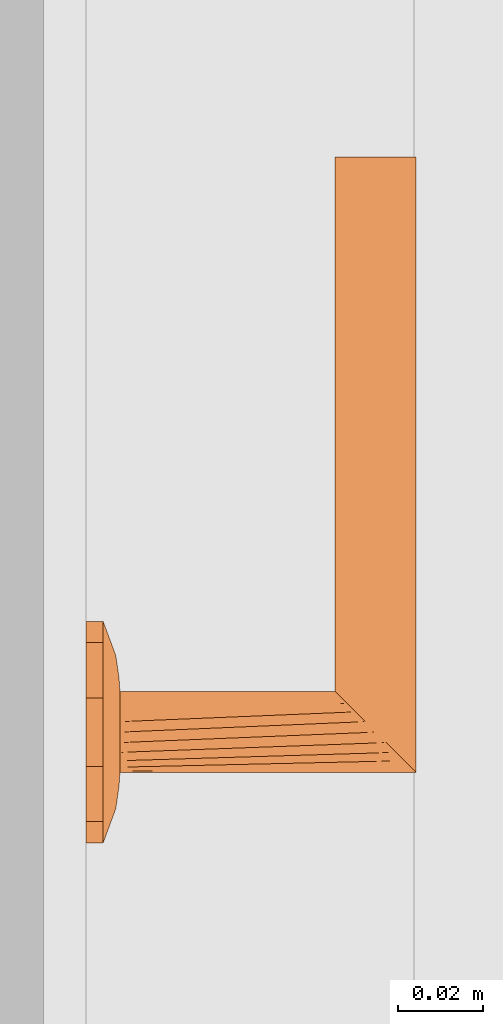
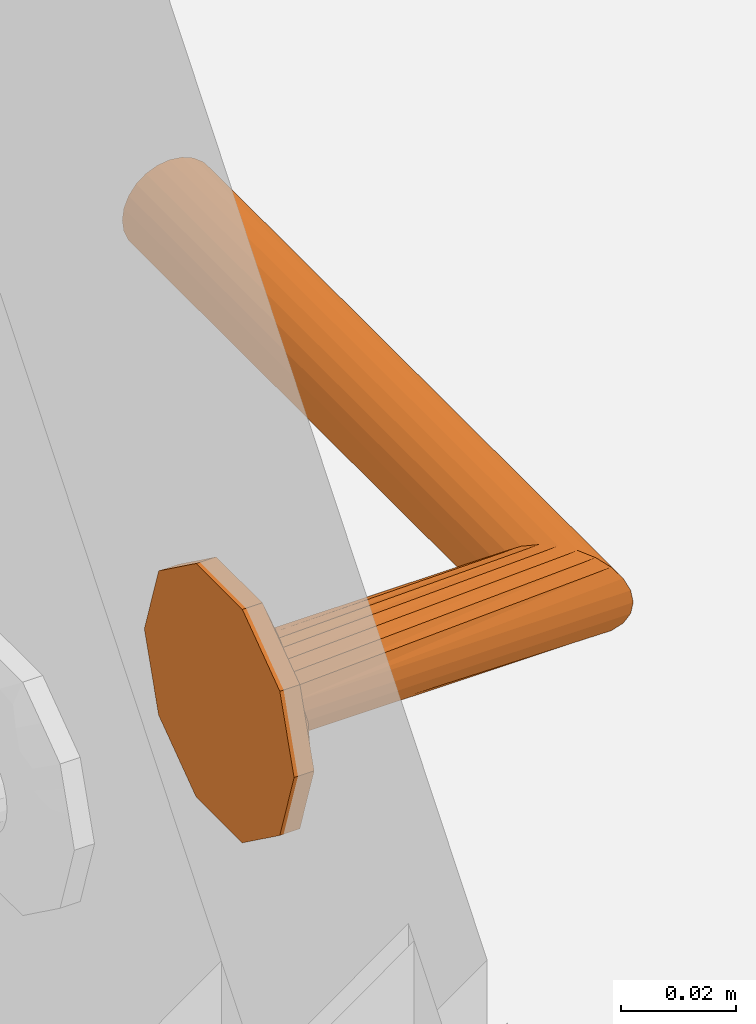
# One storey, part 123 of 125: 1 proxy.
"""IFC2X3 building model written with IfcOpenShell, lengths in millimetres."""

from ifc_helpers import new_model, entity, si_unit, converted_unit, direction, frame, origin, place, context, subcontext, project, spatial, faceted_brep, source, transform, mapped, material, type_object, type_shapes, element, save


model = new_model("IFC2X3")

# Units and contexts
model_context = context("Model", 3, precision=0.01, world=origin(), true_north=direction((6.123233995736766e-17, 1.0)))
plan_context = context("Plan", 3, precision=0.01, world=origin(), true_north=direction((6.123233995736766e-17, 1.0)))
body_context = subcontext(model_context, "Body", "Model", "MODEL_VIEW")
ifc_project = project(units=[si_unit("LENGTHUNIT", "METRE", prefix="MILLI"), converted_unit("PLANEANGLEUNIT", "DEGREE", entity("IfcPlaneAngleMeasure", 0.017453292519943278), si_unit("PLANEANGLEUNIT", "RADIAN"), dimensions=[0, 0, 0, 0, 0, 0, 0]), si_unit("AREAUNIT", "SQUARE_METRE")], contexts=[model_context, plan_context])

# Site, building, storey, space
site_placement = place(None, origin())
site = spatial("IfcSite", under=ifc_project, at=site_placement, Name="Default", CompositionType="ELEMENT")
building_placement = place(site_placement, origin())
building = spatial("IfcBuilding", under=site, at=building_placement, CompositionType="ELEMENT")
storey_placement = place(building_placement, frame((0.0, 0.0, 3125.0)))
storey = spatial("IfcBuildingStorey", under=building, at=storey_placement, Name="2K", CompositionType="ELEMENT", Elevation=3125.0)
space_placement = place(storey_placement, origin())
space = spatial("IfcSpace", under=storey, at=space_placement, Name="2-3.1", CompositionType="ELEMENT", InteriorOrExteriorSpace="INTERNAL")

# Proxy
ifc_material = material(Name="<Unnamed>")
building_element_proxy_type = type_object("IfcBuildingElementProxyType", Name="Door-handle_Lever_ABLOY_INOXI_3-19ss-002_RT:Default", PredefinedType="NOTDEFINED", material=ifc_material)
shared_shape = source(origin(), body_context, "Body", "Brep", [
    faceted_brep([(0.0, 0.0, 0.0), (8.034441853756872, 24.72746942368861, 0.0), (14.534441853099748, 20.00494299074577, 0.0), (21.034441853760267, 15.282416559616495, 0.0), (23.51722092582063, 7.641208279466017, 0.0), (26.0, 0.0, 0.0), (23.517220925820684, -7.641208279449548, 0.0), (0.0, 24.72746942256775, 0.0), (-8.034441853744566, 24.727469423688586, 0.0), (-14.534441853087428, 20.00494299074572, 0.0), (-21.03444185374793, 15.282416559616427, 0.0), (-23.517220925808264, 7.641208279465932, 0.0), (-26.0, 0.0, 0.0), (21.034441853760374, -15.282416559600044, 0.0), (14.534441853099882, -20.004942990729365, 0.0), (8.034441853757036, -24.72746942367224, 0.0), (0.0, -24.72746942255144, 0.0), (-23.517220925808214, -7.641208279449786, 0.0), (-21.034441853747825, -15.282416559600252, 0.0), (-14.53444185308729, -20.004942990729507, 0.0), (-8.0344418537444, -24.72746942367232, 0.0), (0.0, 0.0, 8.0), (9.500000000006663, 0.0, 8.0), (8.312500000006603, 2.056810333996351, 8.0), (7.125000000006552, 4.113620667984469, 8.0), (5.937500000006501, 6.170431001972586, 8.0), (4.7500000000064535, 8.227241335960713, 8.0), (2.375000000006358, 8.2272413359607, 8.0), (0.0, 8.227241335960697, 8.0), (-2.3749999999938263, 8.227241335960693, 8.0), (-4.749999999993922, 8.227241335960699, 8.0), (-5.937499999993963, 6.1704310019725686, 8.0), (-7.124999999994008, 4.1136206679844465, 8.0), (-8.312499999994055, 2.0568103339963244, 8.0), (-9.499999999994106, 0.0, 8.0), (-8.31249999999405, -2.0568103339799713, 8.0), (8.312500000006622, -2.0568103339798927, 8.0), (7.125000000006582, -4.113620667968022, 8.0), (5.937500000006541, -6.170431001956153, 8.0), (4.750000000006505, -8.227241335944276, 8.0), (-7.124999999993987, -4.113620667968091, 8.0), (-5.9374999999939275, -6.17043100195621, 8.0), (-4.74999999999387, -8.227241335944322, 8.0), (-2.374999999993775, -8.227241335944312, 8.0), (0.0, -8.227241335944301, 8.0), (2.3750000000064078, -8.227241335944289, 8.0), (-20.6430713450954, 6.292822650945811, 5.929480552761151), (-16.663919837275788, 7.932665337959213, 6.877259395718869), (-22.48876527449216, 10.806469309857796, 4.030771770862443), (-16.764060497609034, 3.8202578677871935, 7.1747985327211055), (-12.504579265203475, 5.179566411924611, 7.774932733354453), (-11.979136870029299, 13.678312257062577, 6.945778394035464), (-11.963426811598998, 8.62529041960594, 7.618343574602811), (-9.07172672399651, 10.31160661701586, 7.7520782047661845), (8.03444185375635, 24.727469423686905, 4.030771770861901), (0.0, 24.72746942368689, 4.030771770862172), (5.758554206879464, 20.96753300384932, 5.871476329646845), (20.643071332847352, 6.292822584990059, 5.929480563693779), (22.488765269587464, 10.806469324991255, 4.03077177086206), (16.66391982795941, 7.9326653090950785, 6.877259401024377), (9.49943163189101, 18.6436835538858, 6.154325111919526), (14.534441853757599, 20.004942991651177, 4.030771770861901), (-14.534441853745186, 20.00494299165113, 4.030771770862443), (-21.034441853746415, 15.282416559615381, 4.030771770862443), (-15.783149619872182, 11.991003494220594, 6.50080018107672), (-23.943088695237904, 6.330522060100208, 4.030771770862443), (-23.012042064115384, 0.0, 5.135401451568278), (12.50457924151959, 5.179566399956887, 7.774932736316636), (11.963426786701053, 8.625290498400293, 7.618343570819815), (16.76406041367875, 3.820257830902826, 7.17479855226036), (15.783149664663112, 11.991003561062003, 6.50080015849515), (23.01204200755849, 0.0, 5.135401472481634), (17.9853516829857, 0.0, 6.993737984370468), (8.661516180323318, 10.478936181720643, 7.768126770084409), (-3.3573143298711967, 21.197247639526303, 5.971427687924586), (-8.03444185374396, 24.727469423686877, 4.030771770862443), (-7.711266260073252, 12.76034452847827, 7.594456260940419), (-5.97325794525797, 16.43013906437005, 7.110979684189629), (-9.94191586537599, 17.061976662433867, 6.522757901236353), (11.979136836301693, 13.678312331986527, 6.945778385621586), (5.953298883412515, 16.50608604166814, 7.096344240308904), (7.511307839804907, 13.358932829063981, 7.529187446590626), (-1.5654593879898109, 15.307443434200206, 7.519134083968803), (-7.784980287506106, 20.476295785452, 5.812837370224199), (2.8135289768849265, 17.763922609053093, 6.993737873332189), (-17.985351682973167, 0.0, 6.993737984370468), (-26.0, 0.0, 4.030771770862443), (-23.51722092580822, 7.641208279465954, 4.030771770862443), (26.0, 0.0, 4.030771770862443), (24.308823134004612, 5.204907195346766, 4.030771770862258), (23.943088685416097, 6.330522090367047, 4.030771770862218), (21.03444185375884, 15.282416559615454, 4.030771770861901), (22.617646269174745, 10.40981439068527, 4.030771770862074), (20.6430713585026, -6.292822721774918, 5.929480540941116), (16.663919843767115, -7.932665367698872, 6.877259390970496), (22.48876527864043, -10.8064692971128, 4.030771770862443), (16.764060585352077, -3.8202579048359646, 7.174798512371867), (12.504579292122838, -5.17956641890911, 7.774932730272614), (11.979136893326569, -13.678312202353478, 6.9457784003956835), (11.963426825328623, -8.62529034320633, 7.618343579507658), (9.071726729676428, -10.311606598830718, 7.752078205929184), (-8.03444185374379, -24.727469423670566, 4.030771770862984), (0.0, -24.727469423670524, 4.030771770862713), (-5.758554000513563, -20.96753314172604, 5.8714763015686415), (-20.643071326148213, -6.292822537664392, 5.929480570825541), (-22.488765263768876, -10.80646934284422, 4.030771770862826), (-16.66391981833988, -7.932665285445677, 6.877259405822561), (-9.499431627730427, -18.643683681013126, 6.154325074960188), (-14.534441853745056, -20.004942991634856, 4.030771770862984), (14.53444185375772, -20.00494299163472, 4.030771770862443), (21.034441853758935, -15.282416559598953, 4.030771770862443), (15.783149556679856, -11.991003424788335, 6.5008002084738), (23.943088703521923, -6.330522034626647, 4.030771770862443), (-12.504579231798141, -5.17956638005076, 7.77493273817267), (-11.963426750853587, -8.625290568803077, 7.618343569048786), (-16.764060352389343, -3.8202577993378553, 7.174798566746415), (-15.783149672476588, -11.991003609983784, 6.500800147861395), (-8.661516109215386, -10.478936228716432, 7.768126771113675), (3.3573144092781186, -21.197247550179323, 5.971427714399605), (8.034441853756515, -24.727469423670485, 4.030771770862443), (7.711266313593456, -12.760344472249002, 7.5944562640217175), (5.9732581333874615, -16.430139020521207, 7.110979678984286), (9.941915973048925, -17.06197655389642, 6.522757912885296), (-11.979136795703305, -13.678312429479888, 6.945778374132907), (-5.953298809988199, -16.506086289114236, 7.096344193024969), (-7.511307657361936, -13.358932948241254, 7.5291874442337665), (1.5654596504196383, -15.3074431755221, 7.519134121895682), (7.784980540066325, -20.476295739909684, 5.812837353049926), (-2.81352881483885, -17.76392263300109, 6.993737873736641), (23.517220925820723, -7.64120827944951, 4.030771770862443), (-24.308823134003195, -5.20490719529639, 4.030771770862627), (-23.943088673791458, -6.330522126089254, 4.030771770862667), (-21.034441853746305, -15.282416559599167, 4.030771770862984), (-22.617646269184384, -10.409814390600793, 4.0307717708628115)], [[[0, 1, 2]], [[0, 2, 3]], [[0, 3, 4]], [[0, 4, 5]], [[0, 5, 6]], [[0, 7, 1]], [[0, 8, 7]], [[0, 9, 8]], [[0, 10, 9]], [[0, 11, 10]], [[0, 12, 11]], [[0, 6, 13]], [[0, 13, 14]], [[0, 14, 15]], [[0, 15, 16]], [[0, 17, 12]], [[0, 18, 17]], [[0, 19, 18]], [[0, 20, 19]], [[0, 16, 20]], [[21, 22, 23]], [[21, 23, 24]], [[21, 24, 25]], [[21, 25, 26]], [[21, 26, 27]], [[21, 27, 28]], [[21, 28, 29]], [[21, 29, 30]], [[21, 30, 31]], [[21, 31, 32]], [[21, 32, 33]], [[21, 33, 34]], [[21, 34, 35]], [[21, 36, 22]], [[21, 37, 36]], [[21, 38, 37]], [[21, 39, 38]], [[21, 35, 40]], [[21, 40, 41]], [[21, 41, 42]], [[21, 42, 43]], [[21, 43, 44]], [[21, 44, 45]], [[21, 45, 39]], [[46, 47, 48]], [[49, 50, 47]], [[33, 32, 50]], [[51, 52, 53]], [[32, 52, 50]], [[49, 47, 46]], [[54, 55, 56]], [[57, 58, 59]], [[60, 61, 54]], [[62, 63, 64]], [[46, 65, 66]], [[67, 59, 68]], [[23, 69, 67]], [[70, 68, 59]], [[23, 22, 69]], [[52, 51, 64]], [[71, 69, 72]], [[73, 25, 68]], [[74, 55, 75]], [[76, 77, 78]], [[70, 61, 79]], [[71, 57, 69]], [[60, 80, 81]], [[51, 76, 78]], [[77, 29, 82]], [[26, 81, 27]], [[74, 83, 77]], [[77, 82, 74]], [[74, 84, 55]], [[34, 49, 85]], [[23, 67, 24]], [[28, 84, 82]], [[74, 82, 84]], [[29, 76, 30]], [[29, 28, 82]], [[49, 34, 33]], [[47, 50, 52]], [[47, 52, 64]], [[50, 49, 33]], [[53, 76, 51]], [[52, 32, 31]], [[49, 66, 85]], [[86, 66, 65]], [[24, 67, 68]], [[83, 78, 77]], [[49, 46, 66]], [[48, 64, 63]], [[46, 48, 87, 65]], [[48, 47, 64]], [[59, 67, 69]], [[26, 73, 81]], [[79, 68, 70]], [[25, 24, 68]], [[71, 88, 89, 90]], [[22, 72, 69]], [[59, 69, 57]], [[79, 61, 60]], [[51, 62, 64]], [[70, 58, 91]], [[90, 57, 71]], [[58, 70, 59]], [[57, 90, 92]], [[79, 60, 81]], [[61, 70, 91]], [[56, 80, 60]], [[79, 81, 73]], [[80, 84, 27]], [[79, 73, 68]], [[27, 84, 28]], [[25, 73, 26]], [[77, 76, 29]], [[31, 30, 53]], [[78, 62, 51]], [[75, 62, 83]], [[78, 83, 62]], [[75, 83, 74]], [[76, 53, 30]], [[31, 53, 52]], [[81, 80, 27]], [[84, 80, 56]], [[84, 56, 55]], [[54, 56, 60]], [[93, 94, 95]], [[96, 97, 94]], [[36, 37, 97]], [[98, 99, 100]], [[37, 99, 97]], [[96, 94, 93]], [[101, 102, 103]], [[104, 105, 106]], [[107, 108, 101]], [[109, 110, 111]], [[93, 112, 71]], [[113, 106, 114]], [[35, 115, 113]], [[116, 114, 106]], [[35, 34, 115]], [[99, 98, 111]], [[66, 115, 85]], [[117, 41, 114]], [[118, 102, 119]], [[120, 121, 122]], [[116, 108, 123]], [[66, 104, 115]], [[107, 124, 125]], [[120, 45, 121]], [[121, 45, 126]], [[42, 125, 43]], [[118, 127, 121]], [[121, 126, 118]], [[118, 128, 102]], [[22, 96, 72]], [[35, 113, 40]], [[44, 128, 126]], [[118, 126, 128]], [[45, 120, 39]], [[45, 44, 126]], [[96, 22, 36]], [[94, 97, 99]], [[94, 99, 111]], [[97, 96, 36]], [[100, 120, 98]], [[99, 37, 38]], [[96, 71, 72]], [[88, 71, 112]], [[40, 113, 114]], [[127, 122, 121]], [[96, 93, 71]], [[95, 111, 110]], [[93, 95, 129, 112]], [[95, 94, 111]], [[106, 113, 115]], [[42, 117, 125]], [[123, 114, 116]], [[41, 40, 114]], [[66, 86, 130, 131]], [[34, 85, 115]], [[106, 115, 104]], [[123, 108, 107]], [[98, 109, 111]], [[116, 105, 132]], [[131, 104, 66]], [[105, 116, 106]], [[104, 131, 133]], [[123, 107, 125]], [[108, 116, 132]], [[103, 124, 107]], [[123, 125, 117]], [[124, 128, 43]], [[123, 117, 114]], [[43, 128, 44]], [[41, 117, 42]], [[38, 39, 100]], [[98, 120, 122]], [[122, 109, 98]], [[119, 109, 127]], [[122, 127, 109]], [[119, 127, 118]], [[120, 100, 39]], [[38, 100, 99]], [[125, 124, 43]], [[128, 124, 103]], [[128, 103, 102]], [[101, 103, 107]], [[9, 10, 63, 62, 75, 8]], [[11, 12, 86, 65, 87, 48, 63, 10]], [[4, 3, 92, 90, 89, 88, 5]], [[3, 91, 58]], [[55, 54, 1, 7, 8, 75]], [[3, 2, 1, 54, 61, 91]], [[13, 6, 5, 88, 112, 129, 95, 110]], [[119, 15, 14, 13, 110, 109]], [[17, 18, 133, 131, 130, 86, 12]], [[18, 132, 105]], [[102, 101, 20, 16, 15, 119]], [[18, 19, 20, 101, 108, 132]], [[57, 92, 58]], [[104, 133, 105]], [[3, 58, 92]], [[18, 105, 133]]]),
    faceted_brep([(0.0, 9.499999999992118, 8.0), (2.4587809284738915, 9.176295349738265, 8.0), (4.7499999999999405, 8.22724133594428, 8.0), (6.717514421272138, 6.7175144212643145, 8.0), (8.227241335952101, 4.749999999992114, 8.0), (9.17629534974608, 2.458780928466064, 8.0), (9.499999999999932, 0.0, 8.0), (9.17629534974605, -2.458780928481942, 8.0), (8.22724133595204, -4.75000000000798, 8.0), (6.717514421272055, -6.717514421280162, 8.0), (4.7499999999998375, -8.227241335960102, 8.0), (2.4587809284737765, -9.176295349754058, 8.0), (0.0, -9.500000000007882, 8.0), (-2.4587809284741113, -9.176295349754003, 8.0), (-4.750000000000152, -8.227241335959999, 8.0), (-6.717514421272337, -6.717514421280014, 8.0), (-8.227241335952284, -4.750000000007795, 8.0), (-9.176295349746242, -2.458780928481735, 8.0), (-9.500000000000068, 0.0, 8.0), (-9.176295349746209, 2.4587809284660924, 8.0), (-8.227241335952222, 4.74999999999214, 8.0), (-6.717514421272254, 6.717514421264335, 8.0), (-4.7500000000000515, 8.227241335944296, 8.0), (-2.4587809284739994, 9.176295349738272, 8.0), (-6.717514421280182, -6.7175144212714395, 61.282485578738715), (-8.227241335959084, -4.7499999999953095, 59.772758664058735), (-9.176295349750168, -2.458780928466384, 58.82370465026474), (-2.4587809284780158, -9.176295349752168, 65.54121907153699), (-4.750000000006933, -8.227241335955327, 63.25000000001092), (-9.500000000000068, 0.0, 58.50000000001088), (0.0, -9.50000000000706, 68.0), (2.4587809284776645, -9.17629534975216, 70.45878092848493), (4.750000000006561, -8.227241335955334, 72.75000000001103), (6.717514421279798, -6.7175144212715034, 74.71751442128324), (9.17629534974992, -2.458780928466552, 77.17629534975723), (8.22724133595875, -4.749999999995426, 76.22724133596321), (9.499999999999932, 0.0, 77.50000000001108), (9.176295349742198, 2.4587809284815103, 77.1762953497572), (8.227241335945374, 4.750000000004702, 76.22724133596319), (4.749999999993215, 8.227241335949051, 72.75000000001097), (6.7175144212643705, 6.717514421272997, 74.7175144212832), (2.4587809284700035, 9.17629534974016, 70.45878092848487), (-2.4587809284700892, 9.176295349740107, 65.54121907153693), (0.0, 9.49999999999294, 68.0), (-6.717514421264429, 6.717514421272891, 61.282485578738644), (-4.749999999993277, 8.227241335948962, 63.250000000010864), (-9.176295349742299, 2.458780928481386, 58.8237046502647), (-8.227241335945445, 4.750000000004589, 59.77275866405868), (-135.0, 9.500000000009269, 68.0), (-135.0, 9.176295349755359, 65.54121907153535), (-135.0, 8.227241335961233, 63.25000000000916), (-135.0, 6.7175144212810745, 61.28248557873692), (-135.0, 4.750000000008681, 59.772758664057), (-135.0, 2.458780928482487, 58.82370465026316), (-135.0, 0.0, 58.50000000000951), (-135.0, -2.458780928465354, 58.823704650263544), (-135.0, -4.749999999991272, 59.772758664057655), (-135.0, -6.717514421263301, 61.28248557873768), (-135.0, -8.227241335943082, 63.250000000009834), (-135.0, -9.17629534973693, 65.54121907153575), (-135.0, -9.499999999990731, 68.0), (-135.0, -9.17629534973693, 70.45878092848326), (-135.0, -8.227241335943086, 72.75000000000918), (-135.0, -6.717514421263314, 74.71751442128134), (-135.0, -4.749999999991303, 76.22724133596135), (-135.0, -2.4587809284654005, 77.17629534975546), (-135.0, 0.0, 77.5000000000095), (-135.0, 2.4587809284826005, 77.17629534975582), (-135.0, 4.750000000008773, 76.22724133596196), (-135.0, 6.717514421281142, 74.71751442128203), (-135.0, 8.227241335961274, 72.75000000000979), (-135.0, 9.176295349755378, 70.4587809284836)], [[[0, 1, 2, 3, 4, 5, 6, 7, 8, 9, 10, 11, 12, 13, 14, 15, 16, 17, 18, 19, 20, 21, 22, 23]], [[15, 24, 25, 16]], [[16, 25, 26, 17]], [[27, 28, 12]], [[12, 28, 13]], [[13, 28, 24]], [[18, 17, 26, 29]], [[24, 15, 14]], [[14, 13, 24]], [[11, 30, 27]], [[31, 9, 32]], [[32, 8, 33]], [[34, 35, 7]], [[7, 35, 33]], [[36, 34, 7, 6]], [[30, 11, 10]], [[11, 27, 12]], [[33, 8, 7]], [[8, 32, 9]], [[31, 10, 9]], [[10, 31, 30]], [[37, 36, 6, 5]], [[37, 5, 38]], [[39, 40, 4]], [[5, 40, 38]], [[41, 39, 3]], [[5, 4, 40]], [[42, 43, 1]], [[2, 1, 43]], [[2, 41, 3]], [[39, 4, 3]], [[2, 43, 41]], [[23, 44, 45]], [[0, 45, 42]], [[19, 18, 29, 46]], [[20, 19, 46, 47]], [[21, 20, 47, 44]], [[23, 22, 44]], [[45, 0, 23]], [[44, 22, 21]], [[1, 0, 42]], [[48, 49, 50, 51, 52, 53, 54, 55, 56, 57, 58, 59, 60, 61, 62, 63, 64, 65, 66, 67, 68, 69, 70, 71]], [[26, 25, 56, 55]], [[29, 26, 55, 54]], [[28, 27, 59, 58]], [[24, 28, 58, 57]], [[25, 24, 57, 56]], [[27, 30, 60, 59]], [[32, 33, 63, 62]], [[31, 32, 62, 61]], [[34, 36, 66, 65]], [[35, 34, 65, 64]], [[33, 35, 64, 63]], [[61, 60, 30, 31]], [[38, 68, 67, 37]], [[37, 67, 66, 36]], [[41, 71, 70, 39]], [[39, 70, 69, 40]], [[40, 69, 68, 38]], [[48, 71, 41, 43]], [[44, 51, 50, 45]], [[45, 50, 49, 42]], [[29, 54, 53, 46]], [[46, 53, 52, 47]], [[47, 52, 51, 44]], [[42, 49, 48, 43]]]),
])
type_shapes(building_element_proxy_type, [shared_shape])
proxy_placement = place(space_placement, frame((12098.0, 11068.0, 1000.0), z_axis=(1.0, 0.0, 0.0), x_axis=(0.0, -1.0, 0.0)))
element("IfcBuildingElementProxy", 1, at=proxy_placement, inside=space, type_object=building_element_proxy_type, material=ifc_material, Name="Door-handle_Lever_ABLOY_INOXI_3-19ss-002_RT:Default", ObjectType="Door-handle_Lever_ABLOY_INOXI_3-19ss-002_RT:Default", context=body_context, shape_type="MappedRepresentation", body=[
    mapped(shared_shape, transform((0.0, 0.0, 0.0), scale=1.0)),
])

save(model, "model.ifc")
